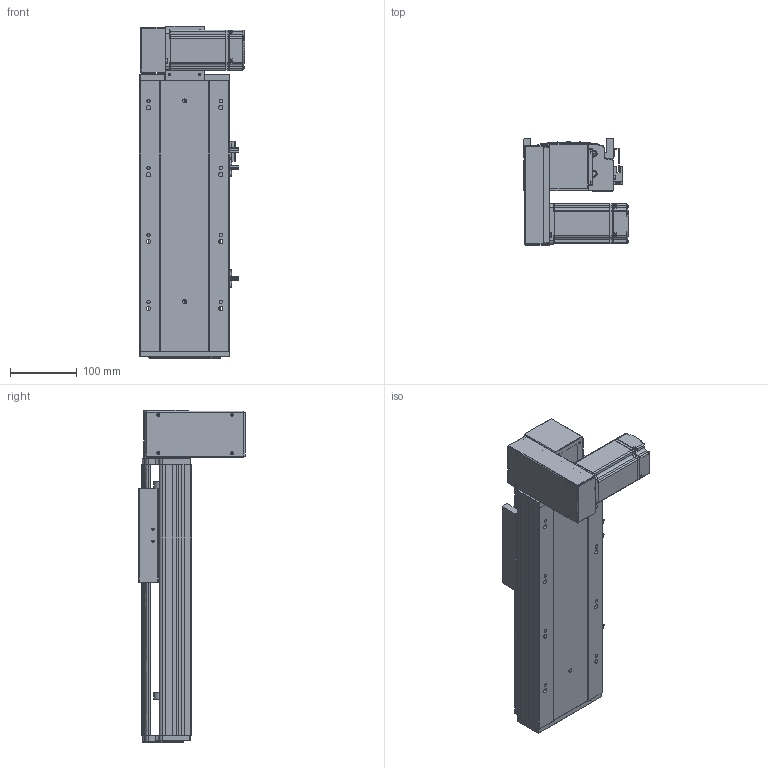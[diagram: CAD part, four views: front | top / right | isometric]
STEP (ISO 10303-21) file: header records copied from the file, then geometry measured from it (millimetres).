
FILE_DESCRIPTION (( 'STEP AP203' ), '1' );
FILE_NAME ('RY140-T-300-DL.SLDASM_150.step', '2021-03-01T06:05:18', ( '盈信电脑' ), ( '东莞市道滘镇水果街19号' ), 'SwSTEP 2.0', 'SolidWorks 2012', '' );
FILE_SCHEMA (( 'CONFIG_CONTROL_DESIGN' ));
Products named in the file (18): RY140-T-300-DL.SLDASM_150; RY140-T萇儂欶; 滅袉蝶18-10; RY140-T翋肮謫裔啣; RY120-T蹟翐M4; RY120-T主同步轮轴承压盖; 15; 侂狟400W侜督萇儂; RY120-T肮祭湍揤踡輸2; RY140-T翋肮祭謫盓傅釱; RY120-T肮祭湍揤踡輸1; RY140-T萇儂假蚾啣; RY120外置感应片(140共用）; 覜茼ん672; RY140綴裔啣; RY140-T-300-DL倰第奻裔啣_150; RY140肮祭謫臏賑輸; RY140-T-300-DL倰第菁釱_150
Assembly tree (23 placements, depth 3):
  RY140-T-300-DL.SLDASM_150
    RY140-T-300-DL倰第菁釱_150
    RY140肮祭謫臏賑輸
    RY140-T-300-DL倰第奻裔啣_150
    RY140綴裔啣
    覜茼ん672  x3
    RY120外置感应片(140共用）
    RY120-T肮祭湍揤踡輸2
    RY120-T肮祭湍揤踡輸1
    RY140-T翋肮祭謫盓傅釱
    RY140-T萇儂假蚾啣
    侂狟400W侜督萇儂
      15
    RY120-T主同步轮轴承压盖
    RY120-T蹟翐M4  x4
    RY140-T萇儂欶
    滅袉蝶18-10  x2
    RY140-T翋肮謫裔啣
Bounding box: 157 x 158.5 x 496 mm (x, y, z)
Volume: 1963228 mm3; surface area: 694666 mm2
Topology: 22 solids, 22 shells, 2514 faces, 6850 edges, 4430 vertices
Faces by surface type: plane 1385, cylinder 867, cone 162, bspline 100
Entity records: 79392 total; most frequent: CARTESIAN_POINT 19413, ORIENTED_EDGE 12300, DIRECTION 11652, EDGE_CURVE 6150, LINE 4034, VECTOR 4034, VERTEX_POINT 4029, AXIS2_PLACEMENT_3D 3809
